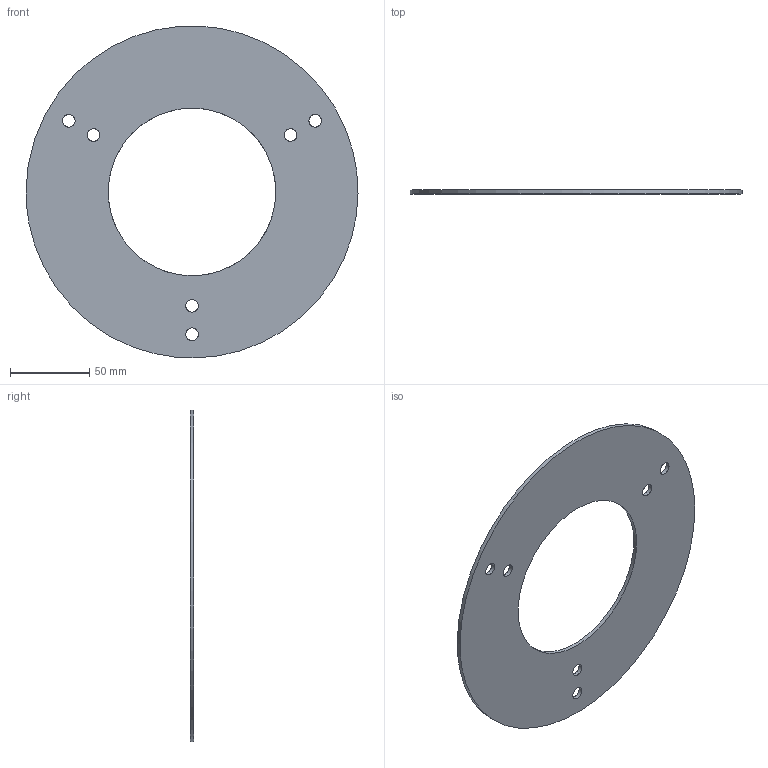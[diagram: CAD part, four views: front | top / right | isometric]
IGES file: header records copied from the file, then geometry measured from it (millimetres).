
Global section: file name: Disque central pavillon v3 v1; native system: unknown; preprocessor: unknown; author: unknown; organization: unknown; date: 20160212.102821; units: millimetre
Bounding box: 210 x 2.5 x 209.88 mm (x, y, z)
Volume: 63855.1 mm3; surface area: 53888 mm2
Topology: 1 solids, 1 shells, 10 faces, 24 edges, 16 vertices
Faces by surface type: bspline 10
